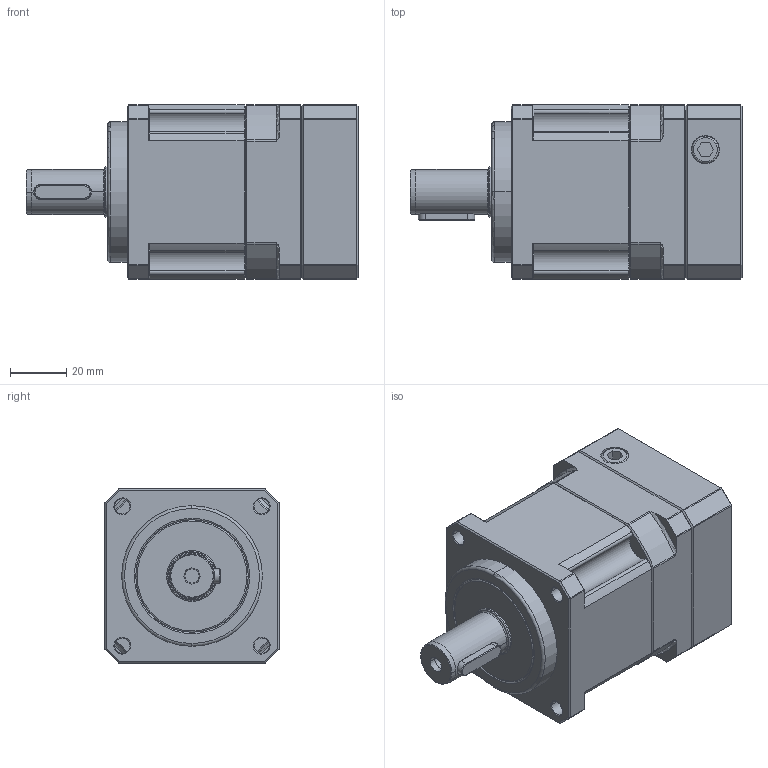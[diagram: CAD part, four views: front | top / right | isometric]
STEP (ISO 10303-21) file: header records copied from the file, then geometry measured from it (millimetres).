
FILE_DESCRIPTION((''),'2;1');
FILE_NAME('TB60-L1_50PCD70M4_ASM','2017-02-11T',('Administrator'),(''),'PRO/ENGINEER BY PARAMETRIC TECHNOLOGY CORPORATION, 2010280','PRO/ENGINEER BY PARAMETRIC TECHNOLOGY CORPORATION, 2010280','');
FILE_SCHEMA(('CONFIG_CONTROL_DESIGN'));
Length unit declared in the file: millimetre
Products named in the file (13): A01_5; A02_7; A03_7; A04_4; A05_2; A06_1; A07_2; A08_1; 01_ASM_1_ASM; A11_1; A12_2; TB90-1_ASM_11_ASM; TB60-L1_50PCD70M4_ASM
Assembly tree (16 placements, depth 4):
  TB60-L1_50PCD70M4_ASM
    TB90-1_ASM_11_ASM
      A01_5
      A02_7
      A03_7
      A04_4
      A05_2
      01_ASM_1_ASM
        A06_1
        A07_2
        A08_1
      A11_1  x2
      A12_2  x4
Bounding box: 118 x 62 x 62 mm (x, y, z)
Volume: 228606.3 mm3; surface area: 64389.1 mm2
Topology: 14 solids, 14 shells, 617 faces, 1587 edges, 971 vertices
Faces by surface type: plane 255, cylinder 163, cone 151, torus 44, bspline 4
Entity records: 17216 total; most frequent: CARTESIAN_POINT 3601, DIRECTION 3031, ORIENTED_EDGE 2698, EDGE_CURVE 1349, AXIS2_PLACEMENT_3D 1191, VERTEX_POINT 849, VECTOR 649, LINE 649
